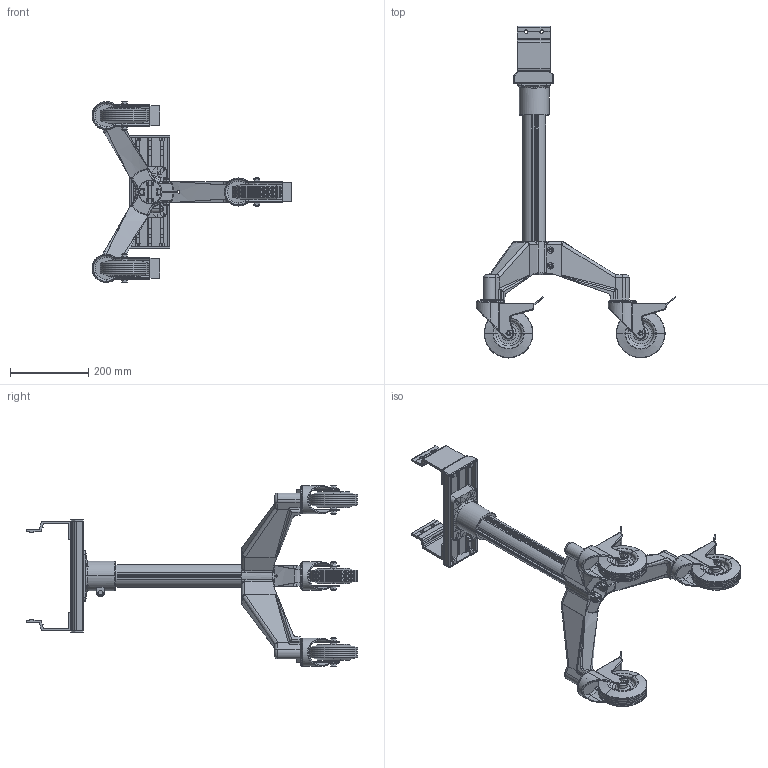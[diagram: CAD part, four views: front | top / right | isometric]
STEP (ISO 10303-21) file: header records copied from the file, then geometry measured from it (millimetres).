
FILE_DESCRIPTION (( 'STEP AP214' ), '1' );
FILE_NAME ('F2-750-P3R.STEP', '2010-03-11T09:15:05', ( '.' ), ( '' ), 'SwSTEP 2.0', 'SolidWorks 2009', '' );
FILE_SCHEMA (( 'AUTOMOTIVE_DESIGN' ));
Length unit declared in the file: millimetre
Products named in the file (1): F2-750-P3R
Bounding box: 511.22 x 848.88 x 465.58 mm (x, y, z)
Surface area: 976100.7 mm2 (no closed solid volume)
Topology: 0 solids, 13 shells, 1261 faces, 3444 edges, 2183 vertices
Faces by surface type: plane 480, cylinder 437, torus 217, bspline 71, cone 46, sphere 10
Entity records: 70479 total; most frequent: CARTESIAN_POINT 25253, DIRECTION 6746, ORIENTED_EDGE 6245, EDGE_CURVE 3428, AXIS2_PLACEMENT_3D 2506, VERTEX_POINT 2183, LINE 1734, VECTOR 1734
